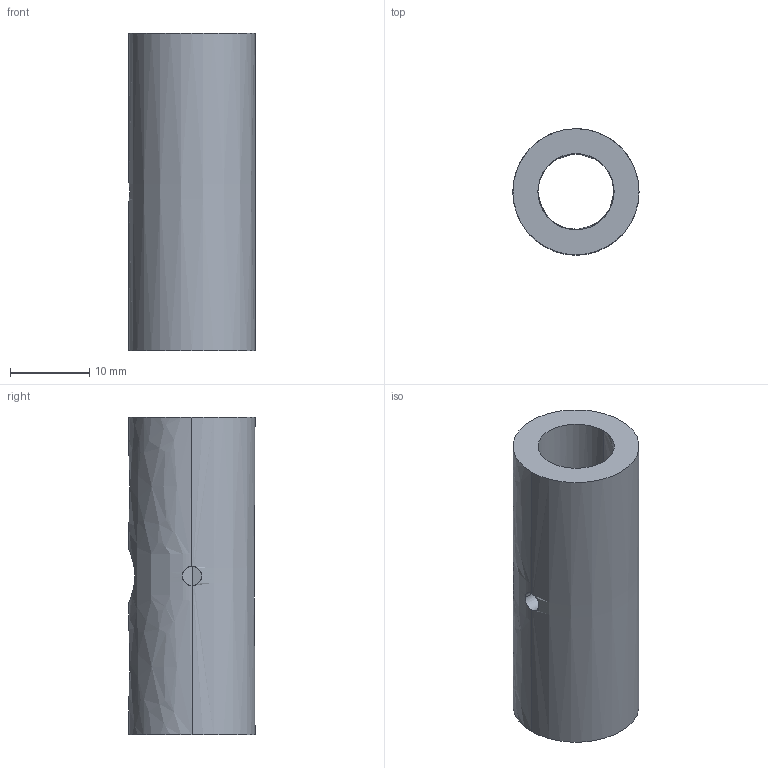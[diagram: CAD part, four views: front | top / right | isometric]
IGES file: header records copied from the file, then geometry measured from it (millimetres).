
Start section: START RECORD GO HERE.
Global section: file name: 1360.000.001.002.TUBO.igs; native system: DASSAULT SYSTEMES CATIA Version 5-6 Release 2018 - www.3ds.com; preprocessor: V5-6R2018_5.28.6.0.03-10-2020.20.00; author: Pc; organization: DESKTOP-CAESKE4; date: 20241108.095759; units: millimetre
Bounding box: 15.88 x 15.88 x 40 mm (x, y, z)
Surface area: 3465.9 mm2 (no closed solid volume)
Topology: 0 solids, 0 shells, 10 faces, 60 edges, 60 vertices
Faces by surface type: revolution 8, plane 2
